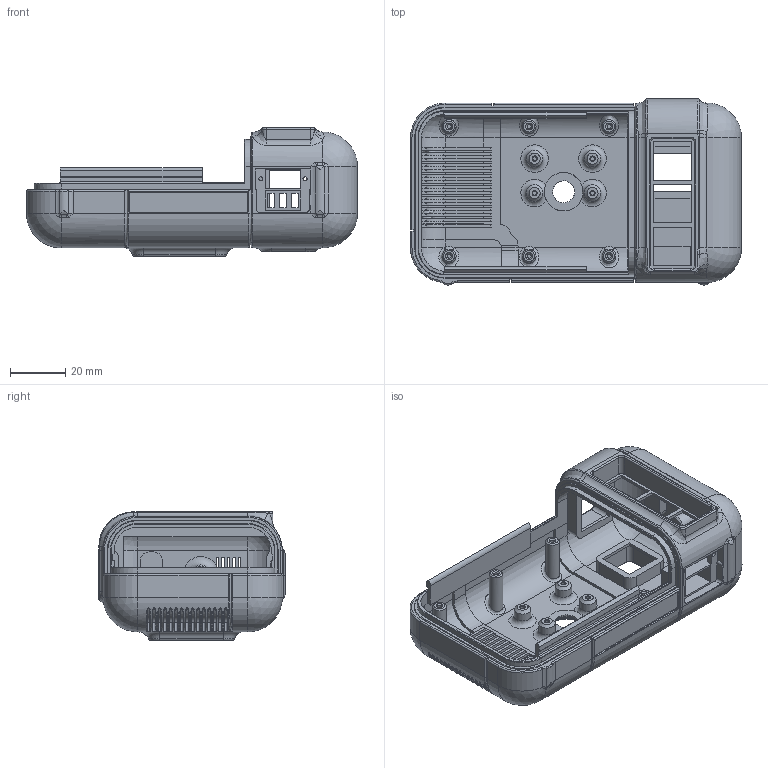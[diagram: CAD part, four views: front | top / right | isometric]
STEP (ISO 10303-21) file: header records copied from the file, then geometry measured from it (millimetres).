
FILE_DESCRIPTION(/* description */ (''),/* implementation_level */ '2;1');
FILE_NAME(/* name */ 'main_body.step',/* time_stamp */ '2026-07-06T13:15:52-05:00',/* author */ (''),/* organization */ (''),/* preprocessor_version */ 'ST-DEVELOPER v20.1',/* originating_system */ 'Autodesk Translation Framework v15.8.0.0',/* authorisation */ '');
FILE_SCHEMA (('AUTOMOTIVE_DESIGN { 1 0 10303 214 3 1 1 }'));
Products named in the file (1): SaturnixLite_Hull
Bounding box: 120 x 67.49 x 46.5 mm (x, y, z)
Volume: 51475.1 mm3; surface area: 48410.6 mm2
Topology: 1 solids, 1 shells, 1251 faces, 3275 edges, 2011 vertices
Faces by surface type: plane 502, cylinder 381, bspline 147, torus 127, cone 78, sphere 16
Full cylindrical faces by diameter (mm): 1.5 x13, 5 x6, 6 x4, 6.788 x1, 8 x1, 9 x1, 10 x1, 11 x1, 12 x1, 13 x1, 16 x1, 17 x1
Entity records: 48204 total; most frequent: CARTESIAN_POINT 17473, ORIENTED_EDGE 6538, DIRECTION 6349, EDGE_CURVE 3269, AXIS2_PLACEMENT_3D 2276, VERTEX_POINT 2011, LINE 1797, VECTOR 1797
